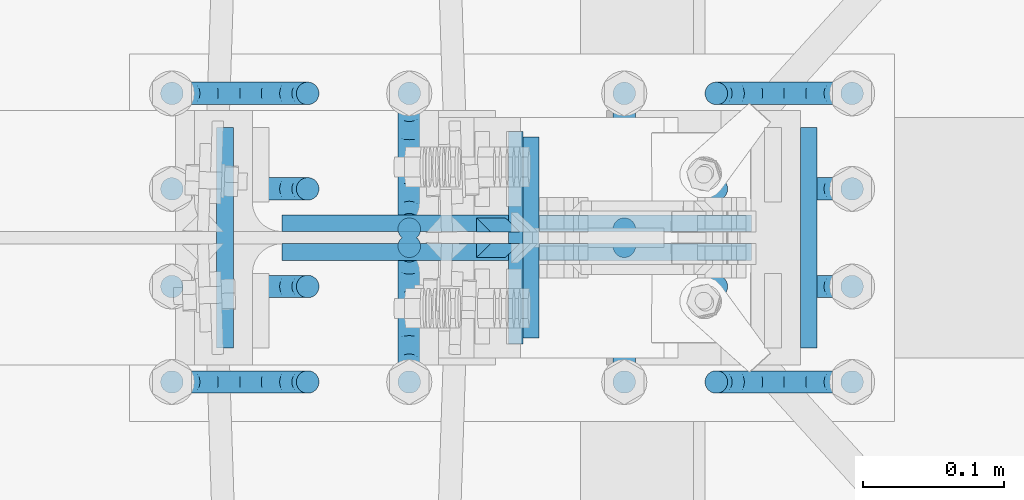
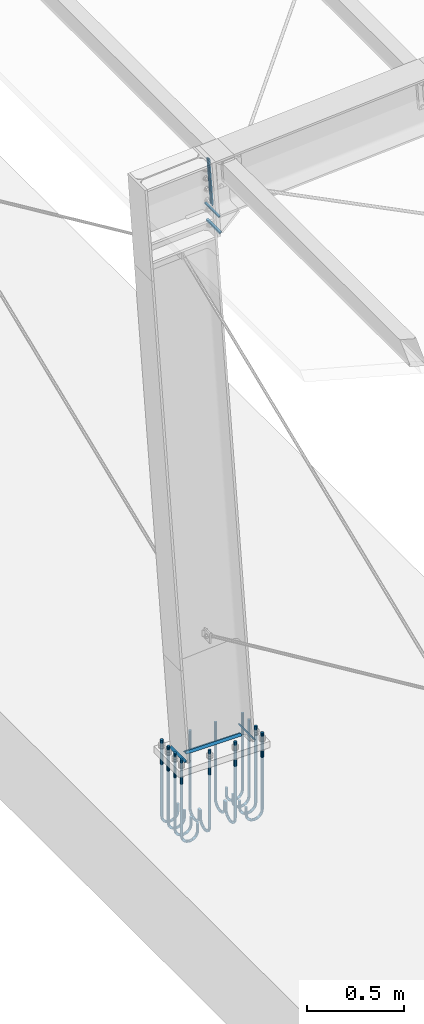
# One storey, part 13 of 72: 16 fasteners, 3 reinforcing bars.
"""IFC4 building model written with IfcOpenShell, lengths in metres."""

from ifc_helpers import new_model, entity, si_unit, frame, origin_with_axes, place, context, project, spatial, polyline, outline, extrude, source, transform, mapped, type_object, element, save


model = new_model("IFC4")

# Units and contexts
model_context = context("Model", 3, precision=1e-05, world=origin_with_axes())
ifc_project = project(units=[si_unit("LENGTHUNIT", "METRE"), si_unit("AREAUNIT", "SQUARE_METRE"), si_unit("VOLUMEUNIT", "CUBIC_METRE"), si_unit("MASSUNIT", "GRAM", prefix="KILO"), si_unit("TIMEUNIT", "SECOND"), si_unit("PLANEANGLEUNIT", "RADIAN"), si_unit("SOLIDANGLEUNIT", "STERADIAN"), si_unit("THERMODYNAMICTEMPERATUREUNIT", "DEGREE_CELSIUS")], contexts=[model_context])

# Site, building, storey
placement_1 = place(None, origin_with_axes())
site = spatial("IfcSite", under=ifc_project, at=placement_1, Name="Italia", CompositionType="ELEMENT")
building = spatial("IfcBuilding", under=site, at=placement_1, Name="Pensilina", CompositionType="ELEMENT")
storey = spatial("IfcBuildingStorey", under=building, at=placement_1, Name="Storey 0", CompositionType="ELEMENT", Elevation=0.0)

# Fasteners
fastener_type_1 = type_object("IfcFastenerType", Name="Collegamento 0002_-197", PredefinedType="WELD")
placement_2 = place(placement_1, origin_with_axes())
fastener_1_placement = place(placement_2, origin_with_axes())
element("IfcFastener", 1, at=fastener_1_placement, inside=storey, type_object=fastener_type_1, Name="Collegamento 0002_-197", context=model_context, shape_type="SweptSolid", body=[
    extrude(outline(polyline([(0.0, 0.0, 0.0), (0.0118082, 0.0121734, 0.0), (0.0118082, 0.0, 0.0), (0.0, 0.0, 0.0)])), frame((1.14428, 5.20195, 0.103658), z_axis=(0.0, 1.0, 0.0), x_axis=(-1.0, 0.0, 0.0)), (0.0, 0.0, 1.0), 0.1561),
])
fastener_type_2 = type_object("IfcFastenerType", Name="Collegamento 0002_-197", PredefinedType="WELD")
fastener_2_placement = place(placement_2, origin_with_axes())
element("IfcFastener", 2, at=fastener_2_placement, inside=storey, type_object=fastener_type_2, Name="Collegamento 0002_-197", context=model_context, shape_type="SweptSolid", body=[
    extrude(outline(polyline([(0.0, 0.0, 0.0), (0.0118082, 0.0121734, 0.0), (0.0118082, 0.0, 0.0), (0.0, 0.0, 0.0)])), frame((0.719817, 5.35805, 0.103658), z_axis=(0.0, -1.0, 0.0), x_axis=(1.0, 0.0, 0.0)), (0.0, 0.0, 1.0), 0.1561),
])
fastener_type_3 = type_object("IfcFastenerType", Name="Collegamento 0002_-197", PredefinedType="WELD")
fastener_3_placement = place(placement_2, origin_with_axes())
element("IfcFastener", 3, at=fastener_3_placement, inside=storey, type_object=fastener_type_3, Name="Collegamento 0002_-197", context=model_context, shape_type="SweptSolid", body=[
    extrude(outline(polyline([(0.0, 0.0, 0.0), (0.0118084, 0.0121734, 0.0), (0.0118084, 0.0, 0.0), (0.0, 0.0, 0.0)])), frame((0.766057, 5.26394, 0.103658), z_axis=(1.0, 0.0, 0.0), x_axis=(0.0, 1.0, 0.0)), (0.0, 0.0, 1.0), 0.331979),
])
fastener_type_4 = type_object("IfcFastenerType", Name="Collegamento 0002_-197", PredefinedType="WELD")
fastener_4_placement = place(placement_2, origin_with_axes())
element("IfcFastener", 4, at=fastener_4_placement, inside=storey, type_object=fastener_type_4, Name="Collegamento 0002_-197", context=model_context, shape_type="SweptSolid", body=[
    extrude(outline(polyline([(0.0, 0.0, 0.0), (0.0118084, 0.0121734, 0.0), (0.0118084, 0.0, 0.0), (0.0, 0.0, 0.0)])), frame((1.09804, 5.29606, 0.103658), z_axis=(-1.0, 0.0, 0.0), x_axis=(0.0, -1.0, 0.0)), (0.0, 0.0, 1.0), 0.331979),
])
fastener_type_5 = type_object("IfcFastenerType", Name="Collegamento 0002_-197", PredefinedType="WELD")
fastener_5_placement = place(placement_2, origin_with_axes())
element("IfcFastener", 5, at=fastener_5_placement, inside=storey, type_object=fastener_type_5, Name="Collegamento 0002_-197", context=model_context, shape_type="SweptSolid", body=[
    extrude(outline(polyline([(0.0, 0.0, 0.0), (0.0118082, 0.0121734, 0.0), (0.0118082, 0.0, 0.0), (0.0, 0.0, 0.0)])), frame((1.14428, 5.20195, 0.103658), z_axis=(0.0, 1.0, 0.0), x_axis=(-1.0, 0.0, 0.0)), (0.0, 0.0, 1.0), 0.1561),
])
fastener_type_6 = type_object("IfcFastenerType", Name="Collegamento 0002_-197", PredefinedType="WELD")
fastener_6_placement = place(placement_2, origin_with_axes())
element("IfcFastener", 6, at=fastener_6_placement, inside=storey, type_object=fastener_type_6, Name="Collegamento 0002_-197", context=model_context, shape_type="SweptSolid", body=[
    extrude(outline(polyline([(0.0, 0.0, 0.0), (0.0118082, 0.0121734, 0.0), (0.0118082, 0.0, 0.0), (0.0, 0.0, 0.0)])), frame((0.719817, 5.35805, 0.103658), z_axis=(0.0, -1.0, 0.0), x_axis=(1.0, 0.0, 0.0)), (0.0, 0.0, 1.0), 0.1561),
])
fastener_type_7 = type_object("IfcFastenerType", Name="Collegamento 0002_-197", PredefinedType="WELD")
fastener_7_placement = place(placement_2, origin_with_axes())
element("IfcFastener", 7, at=fastener_7_placement, inside=storey, type_object=fastener_type_7, Name="Collegamento 0002_-197", context=model_context, shape_type="SweptSolid", body=[
    extrude(outline(polyline([(0.0, 0.0, 0.0), (0.0118084, 0.0121734, 0.0), (0.0118084, 0.0, 0.0), (0.0, 0.0, 0.0)])), frame((0.766057, 5.26394, 0.103658), z_axis=(1.0, 0.0, 0.0), x_axis=(0.0, 1.0, 0.0)), (0.0, 0.0, 1.0), 0.331979),
])
fastener_type_8 = type_object("IfcFastenerType", Name="Collegamento 0002_-197", PredefinedType="WELD")
fastener_8_placement = place(placement_2, origin_with_axes())
element("IfcFastener", 8, at=fastener_8_placement, inside=storey, type_object=fastener_type_8, Name="Collegamento 0002_-197", context=model_context, shape_type="SweptSolid", body=[
    extrude(outline(polyline([(0.0, 0.0, 0.0), (0.0118084, 0.0121734, 0.0), (0.0118084, 0.0, 0.0), (0.0, 0.0, 0.0)])), frame((1.09804, 5.29606, 0.103658), z_axis=(-1.0, 0.0, 0.0), x_axis=(0.0, -1.0, 0.0)), (0.0, 0.0, 1.0), 0.331979),
])

# Reinforcing bars
shared_shape_1 = source(origin_with_axes(), model_context, "Body", "AdvancedSweptSolid", [
    entity("IfcSweptDiskSolid", entity("IfcIndexedPolyCurve", entity("IfcCartesianPointList3D", [[0.68823, 5.382, 0.153708], [0.68823, 5.382, -0.330292]]), [entity("IfcLineIndex", [1, 2])], False), 0.008),
])
reinforcing_bar_1_placement = place(placement_2, origin_with_axes())
element("IfcReinforcingBar", 9, at=reinforcing_bar_1_placement, inside=storey, BarLength=0.484, CrossSectionArea=0.00020106, NominalDiameter=0.016, context=model_context, shape_type="MappedRepresentation", body=[
    mapped(shared_shape_1, transform((0.4809, 0.0, 0.0), x_axis=(1.0, 0.0, 0.0), y_axis=(0.0, 1.0, 0.0), z_axis=(0.0, 0.0, 1.0), scale=1.0)),
    mapped(shared_shape_1, transform((0.319817, -0.204, 0.0), x_axis=(1.0, 0.0, 0.0), y_axis=(0.0, 1.0, 0.0), z_axis=(0.0, 0.0, 1.0), scale=1.0)),
    mapped(shared_shape_1, transform((0.319817, 0.0, 0.0), x_axis=(1.0, 0.0, 0.0), y_axis=(0.0, 1.0, 0.0), z_axis=(0.0, 0.0, 1.0), scale=1.0)),
    mapped(shared_shape_1, transform((0.4809, -0.204, 0.0), x_axis=(1.0, 0.0, 0.0), y_axis=(0.0, 1.0, 0.0), z_axis=(0.0, 0.0, 1.0), scale=1.0)),
    mapped(shared_shape_1, transform((0.4809, -0.1365, 0.0), x_axis=(1.0, 0.0, 0.0), y_axis=(0.0, 1.0, 0.0), z_axis=(0.0, 0.0, 1.0), scale=1.0)),
    mapped(shared_shape_1, transform((0.4809, -0.0674996, 0.0), x_axis=(1.0, 0.0, 0.0), y_axis=(0.0, 1.0, 0.0), z_axis=(0.0, 0.0, 1.0), scale=1.0)),
    mapped(shared_shape_1, transform((0.0, -0.1365, 0.0), x_axis=(1.0, 0.0, 0.0), y_axis=(0.0, 1.0, 0.0), z_axis=(0.0, 0.0, 1.0), scale=1.0)),
    mapped(shared_shape_1, transform((0.0, -0.0674996, 0.0), x_axis=(1.0, 0.0, 0.0), y_axis=(0.0, 1.0, 0.0), z_axis=(0.0, 0.0, 1.0), scale=1.0)),
    mapped(shared_shape_1, transform((0.0, 0.0, 0.0), x_axis=(1.0, 0.0, 0.0), y_axis=(0.0, 1.0, 0.0), z_axis=(0.0, 0.0, 1.0), scale=1.0)),
    mapped(shared_shape_1, transform((0.167817, -0.204, 0.0), x_axis=(1.0, 0.0, 0.0), y_axis=(0.0, 1.0, 0.0), z_axis=(0.0, 0.0, 1.0), scale=1.0)),
    mapped(shared_shape_1, transform((0.167817, 0.0, 0.0), x_axis=(1.0, 0.0, 0.0), y_axis=(0.0, 1.0, 0.0), z_axis=(0.0, 0.0, 1.0), scale=1.0)),
    mapped(shared_shape_1, transform((0.0, -0.204, 0.0), x_axis=(1.0, 0.0, 0.0), y_axis=(0.0, 1.0, 0.0), z_axis=(0.0, 0.0, 1.0), scale=1.0)),
])
shared_shape_2 = source(origin_with_axes(), model_context, "Body", "AdvancedSweptSolid", [
    entity("IfcSweptDiskSolid", entity("IfcIndexedPolyCurve", entity("IfcCartesianPointList3D", [[0.68823, 5.382, -0.330292], [0.691883, 5.382, -0.348661]]), [entity("IfcLineIndex", [1, 2])], False), 0.008),
])
reinforcing_bar_2_placement = place(placement_2, origin_with_axes())
element("IfcReinforcingBar", 10, at=reinforcing_bar_2_placement, inside=storey, BarLength=0.0187287, CrossSectionArea=0.00020106, NominalDiameter=0.016, context=model_context, shape_type="MappedRepresentation", body=[
    mapped(shared_shape_2, transform((-4.52595, 6.07023, 8.64267e-06), x_axis=(0.0, -1.0, -1.25021e-05), y_axis=(1.0, 0.0, 0.0), z_axis=(0.0, -1.25021e-05, 1.0), scale=1.0)),
    mapped(shared_shape_2, transform((0.0, -0.204, 0.0), x_axis=(1.0, 0.0, 0.0), y_axis=(0.0, 1.0, 0.0), z_axis=(0.0, 0.0, 1.0), scale=1.0)),
    mapped(shared_shape_2, transform((-4.52595, 6.14058, -0.306887), x_axis=(0.0, -0.923879, 0.382685), y_axis=(1.0, 0.0, 0.0), z_axis=(0.0, 0.382685, 0.923879), scale=1.0)),
    mapped(shared_shape_2, transform((-0.0703552, -0.204, -0.306887), x_axis=(0.923879, 0.0, 0.382685), y_axis=(0.0, 1.0, 0.0), z_axis=(-0.382685, 0.0, 0.923879), scale=1.0)),
    mapped(shared_shape_2, transform((-4.52595, 5.92089, -0.884082), x_axis=(0.0, -0.382684, 0.923879), y_axis=(1.0, 0.0, 0.0), z_axis=(0.0, 0.923879, 0.382684), scale=1.0)),
    mapped(shared_shape_2, transform((-0.0179144, -0.0674996, -0.617335), x_axis=(0.707105, 0.0, 0.707108), y_axis=(0.0, 1.0, 0.0), z_axis=(-0.707108, 0.0, 0.707105), scale=1.0)),
    mapped(shared_shape_2, transform((-0.0179144, 0.0, -0.617335), x_axis=(0.707105, 0.0, 0.707108), y_axis=(0.0, 1.0, 0.0), z_axis=(-0.707108, 0.0, 0.707105), scale=1.0)),
    mapped(shared_shape_2, transform((1.02327, -0.204, -1.08444), x_axis=(-0.707106, 0.0, 0.707108), y_axis=(0.0, 1.0, 0.0), z_axis=(-0.707108, 0.0, -0.707106), scale=1.0)),
    mapped(shared_shape_2, transform((0.149338, -0.204, -0.884083), x_axis=(0.382682, 0.0, 0.92388), y_axis=(0.0, 1.0, 0.0), z_axis=(-0.92388, 0.0, 0.382682), scale=1.0)),
    mapped(shared_shape_2, transform((0.712824, -0.0674996, -1.13688), x_axis=(-0.382684, 0.0, 0.923879), y_axis=(0.0, 1.0, 0.0), z_axis=(-0.923879, 0.0, -0.382684), scale=1.0)),
    mapped(shared_shape_2, transform((1.29002, -0.204, -0.917183), x_axis=(-0.923881, 0.0, 0.382679), y_axis=(0.0, 1.0, 0.0), z_axis=(-0.382679, 0.0, -0.923881), scale=1.0)),
    mapped(shared_shape_2, transform((-4.52595, 5.66429, -1.06652), x_axis=(0.0, 0.0, 1.0), y_axis=(1.0, 0.0, 0.0), z_axis=(0.0, 1.0, 0.0), scale=1.0)),
    mapped(shared_shape_2, transform((6.23805, 5.2026, -1.13688), x_axis=(0.0, -0.382692, 0.923876), y_axis=(-1.0, 0.0, 0.0), z_axis=(0.0, -0.923876, -0.382692), scale=1.0)),
    mapped(shared_shape_2, transform((0.712824, -0.204, -1.13688), x_axis=(-0.382684, 0.0, 0.923879), y_axis=(0.0, 1.0, 0.0), z_axis=(-0.923879, 0.0, -0.382684), scale=1.0)),
    mapped(shared_shape_2, transform((-4.52595, 6.08814, -0.617336), x_axis=(0.0, -0.707104, 0.70711), y_axis=(1.0, 0.0, 0.0), z_axis=(0.0, 0.70711, 0.707104), scale=1.0)),
    mapped(shared_shape_2, transform((-0.0703552, 0.0, -0.306887), x_axis=(0.923879, 0.0, 0.382685), y_axis=(0.0, 1.0, 0.0), z_axis=(-0.382685, 0.0, 0.923879), scale=1.0)),
    mapped(shared_shape_2, transform((-0.0703552, -0.0674996, -0.306887), x_axis=(0.923879, 0.0, 0.382685), y_axis=(0.0, 1.0, 0.0), z_axis=(-0.382685, 0.0, 0.923879), scale=1.0)),
    mapped(shared_shape_2, transform((-0.0179144, -0.204, -0.617335), x_axis=(0.707105, 0.0, 0.707108), y_axis=(0.0, 1.0, 0.0), z_axis=(-0.707108, 0.0, 0.707105), scale=1.0)),
    mapped(shared_shape_2, transform((0.0, -0.1365, 0.0), x_axis=(1.0, 0.0, 0.0), y_axis=(0.0, 1.0, 0.0), z_axis=(0.0, 0.0, 1.0), scale=1.0)),
    mapped(shared_shape_2, transform((0.712824, 0.0, -1.13688), x_axis=(-0.382684, 0.0, 0.923879), y_axis=(0.0, 1.0, 0.0), z_axis=(-0.923879, 0.0, -0.382684), scale=1.0)),
    mapped(shared_shape_2, transform((0.405939, 0.0, -1.06652), x_axis=(0.0, 0.0, 1.0), y_axis=(0.0, 1.0, 0.0), z_axis=(-1.0, 0.0, 0.0), scale=1.0)),
    mapped(shared_shape_2, transform((-4.52595, 4.78021, -0.917186), x_axis=(0.0, 0.923879, 0.382685), y_axis=(1.0, 0.0, 0.0), z_axis=(0.0, 0.382685, -0.923879), scale=1.0)),
    mapped(shared_shape_2, transform((0.149338, -0.1365, -0.884083), x_axis=(0.382682, 0.0, 0.92388), y_axis=(0.0, 1.0, 0.0), z_axis=(-0.92388, 0.0, 0.382682), scale=1.0)),
    mapped(shared_shape_2, transform((-0.0179144, -0.1365, -0.617335), x_axis=(0.707105, 0.0, 0.707108), y_axis=(0.0, 1.0, 0.0), z_axis=(-0.707108, 0.0, 0.707105), scale=1.0)),
    mapped(shared_shape_2, transform((1.02327, -0.1365, -1.08444), x_axis=(-0.707106, 0.0, 0.707108), y_axis=(0.0, 1.0, 0.0), z_axis=(-0.707108, 0.0, -0.707106), scale=1.0)),
    mapped(shared_shape_2, transform((0.149338, 0.0, -0.884083), x_axis=(0.382682, 0.0, 0.92388), y_axis=(0.0, 1.0, 0.0), z_axis=(-0.92388, 0.0, 0.382682), scale=1.0)),
    mapped(shared_shape_2, transform((0.405939, -0.1365, -1.06652), x_axis=(0.0, 0.0, 1.0), y_axis=(0.0, 1.0, 0.0), z_axis=(-1.0, 0.0, 0.0), scale=1.0)),
    mapped(shared_shape_2, transform((0.149338, -0.0674996, -0.884083), x_axis=(0.382682, 0.0, 0.92388), y_axis=(0.0, 1.0, 0.0), z_axis=(-0.92388, 0.0, 0.382682), scale=1.0)),
    mapped(shared_shape_2, transform((-4.37395, 5.04696, -1.08444), x_axis=(0.0, 0.707104, 0.70711), y_axis=(1.0, 0.0, 0.0), z_axis=(0.0, 0.70711, -0.707104), scale=1.0)),
    mapped(shared_shape_2, transform((-4.52595, 5.04696, -1.08444), x_axis=(0.0, 0.707104, 0.70711), y_axis=(1.0, 0.0, 0.0), z_axis=(0.0, 0.70711, -0.707104), scale=1.0)),
    mapped(shared_shape_2, transform((-4.52595, 5.3574, -1.13688), x_axis=(0.0, 0.382692, 0.923876), y_axis=(1.0, 0.0, 0.0), z_axis=(0.0, 0.923876, -0.382692), scale=1.0)),
    mapped(shared_shape_2, transform((-4.37395, 6.08814, -0.617336), x_axis=(0.0, -0.707104, 0.70711), y_axis=(1.0, 0.0, 0.0), z_axis=(0.0, 0.70711, 0.707104), scale=1.0)),
    mapped(shared_shape_2, transform((-4.37395, 6.07023, 8.64267e-06), x_axis=(0.0, -1.0, -1.25021e-05), y_axis=(1.0, 0.0, 0.0), z_axis=(0.0, -1.25021e-05, 1.0), scale=1.0)),
    mapped(shared_shape_2, transform((-4.37395, 5.92089, -0.884082), x_axis=(0.0, -0.382684, 0.923879), y_axis=(1.0, 0.0, 0.0), z_axis=(0.0, 0.923879, 0.382684), scale=1.0)),
    mapped(shared_shape_2, transform((-4.37395, 6.14058, -0.306887), x_axis=(0.0, -0.923879, 0.382685), y_axis=(1.0, 0.0, 0.0), z_axis=(0.0, 0.382685, 0.923879), scale=1.0)),
    mapped(shared_shape_2, transform((-4.37395, 5.66429, -1.06652), x_axis=(0.0, 0.0, 1.0), y_axis=(1.0, 0.0, 0.0), z_axis=(0.0, 1.0, 0.0), scale=1.0)),
    mapped(shared_shape_2, transform((0.712824, -0.1365, -1.13688), x_axis=(-0.382684, 0.0, 0.923879), y_axis=(0.0, 1.0, 0.0), z_axis=(-0.923879, 0.0, -0.382684), scale=1.0)),
    mapped(shared_shape_2, transform((1.02327, -0.0674996, -1.08444), x_axis=(-0.707106, 0.0, 0.707108), y_axis=(0.0, 1.0, 0.0), z_axis=(-0.707108, 0.0, -0.707106), scale=1.0)),
    mapped(shared_shape_2, transform((1.02327, 0.0, -1.08444), x_axis=(-0.707106, 0.0, 0.707108), y_axis=(0.0, 1.0, 0.0), z_axis=(-0.707108, 0.0, -0.707106), scale=1.0)),
    mapped(shared_shape_2, transform((-0.0703552, -0.1365, -0.306887), x_axis=(0.923879, 0.0, 0.382685), y_axis=(0.0, 1.0, 0.0), z_axis=(-0.382685, 0.0, 0.923879), scale=1.0)),
    mapped(shared_shape_2, transform((0.0, 0.0, 0.0), x_axis=(1.0, 0.0, 0.0), y_axis=(0.0, 1.0, 0.0), z_axis=(0.0, 0.0, 1.0), scale=1.0)),
    mapped(shared_shape_2, transform((0.0, -0.0674996, 0.0), x_axis=(1.0, 0.0, 0.0), y_axis=(0.0, 1.0, 0.0), z_axis=(0.0, 0.0, 1.0), scale=1.0)),
    mapped(shared_shape_2, transform((0.405939, -0.204, -1.06652), x_axis=(0.0, 0.0, 1.0), y_axis=(0.0, 1.0, 0.0), z_axis=(-1.0, 0.0, 0.0), scale=1.0)),
    mapped(shared_shape_2, transform((1.29002, -0.0674996, -0.917183), x_axis=(-0.923881, 0.0, 0.382679), y_axis=(0.0, 1.0, 0.0), z_axis=(-0.382679, 0.0, -0.923881), scale=1.0)),
    mapped(shared_shape_2, transform((1.29002, -0.1365, -0.917183), x_axis=(-0.923881, 0.0, 0.382679), y_axis=(0.0, 1.0, 0.0), z_axis=(-0.382679, 0.0, -0.923881), scale=1.0)),
    mapped(shared_shape_2, transform((0.405939, -0.0674996, -1.06652), x_axis=(0.0, 0.0, 1.0), y_axis=(0.0, 1.0, 0.0), z_axis=(-1.0, 0.0, 0.0), scale=1.0)),
    mapped(shared_shape_2, transform((6.23805, 4.89571, -1.06652), x_axis=(0.0, 0.0, 1.0), y_axis=(-1.0, 0.0, 0.0), z_axis=(0.0, -1.0, 0.0), scale=1.0)),
    mapped(shared_shape_2, transform((6.39005, 4.89571, -1.06652), x_axis=(0.0, 0.0, 1.0), y_axis=(-1.0, 0.0, 0.0), z_axis=(0.0, -1.0, 0.0), scale=1.0)),
    mapped(shared_shape_2, transform((1.29002, 0.0, -0.917183), x_axis=(-0.923881, 0.0, 0.382679), y_axis=(0.0, 1.0, 0.0), z_axis=(-0.382679, 0.0, -0.923881), scale=1.0)),
    mapped(shared_shape_2, transform((6.23805, 4.48977, 8.64267e-06), x_axis=(0.0, 1.0, -1.25021e-05), y_axis=(-1.0, 0.0, 0.0), z_axis=(0.0, 1.25021e-05, 1.0), scale=1.0)),
    mapped(shared_shape_2, transform((6.39005, 4.41942, -0.306887), x_axis=(0.0, 0.923879, 0.382685), y_axis=(-1.0, 0.0, 0.0), z_axis=(0.0, -0.382685, 0.923879), scale=1.0)),
    mapped(shared_shape_2, transform((6.23805, 4.47186, -0.617336), x_axis=(0.0, 0.707104, 0.70711), y_axis=(-1.0, 0.0, 0.0), z_axis=(0.0, -0.70711, 0.707104), scale=1.0)),
    mapped(shared_shape_2, transform((6.23805, 4.41942, -0.306887), x_axis=(0.0, 0.923879, 0.382685), y_axis=(-1.0, 0.0, 0.0), z_axis=(0.0, -0.382685, 0.923879), scale=1.0)),
    mapped(shared_shape_2, transform((6.39005, 4.48977, 8.64267e-06), x_axis=(0.0, 1.0, -1.25021e-05), y_axis=(-1.0, 0.0, 0.0), z_axis=(0.0, 1.25021e-05, 1.0), scale=1.0)),
    mapped(shared_shape_2, transform((6.23805, 4.63911, -0.884082), x_axis=(0.0, 0.382684, 0.923879), y_axis=(-1.0, 0.0, 0.0), z_axis=(0.0, -0.923879, 0.382684), scale=1.0)),
    mapped(shared_shape_2, transform((6.39005, 4.47186, -0.617336), x_axis=(0.0, 0.707104, 0.70711), y_axis=(-1.0, 0.0, 0.0), z_axis=(0.0, -0.70711, 0.707104), scale=1.0)),
    mapped(shared_shape_2, transform((6.39005, 4.63911, -0.884082), x_axis=(0.0, 0.382684, 0.923879), y_axis=(-1.0, 0.0, 0.0), z_axis=(0.0, -0.923879, 0.382684), scale=1.0)),
    mapped(shared_shape_2, transform((-4.37395, 4.78021, -0.917186), x_axis=(0.0, 0.923879, 0.382685), y_axis=(1.0, 0.0, 0.0), z_axis=(0.0, 0.382685, -0.923879), scale=1.0)),
    mapped(shared_shape_2, transform((-4.37395, 5.3574, -1.13688), x_axis=(0.0, 0.382692, 0.923876), y_axis=(1.0, 0.0, 0.0), z_axis=(0.0, 0.923876, -0.382692), scale=1.0)),
    mapped(shared_shape_2, transform((1.92771, 10.56, -0.306887), x_axis=(-0.923879, 0.0, 0.382685), y_axis=(0.0, -1.0, 0.0), z_axis=(0.382685, 0.0, 0.923879), scale=1.0)),
    mapped(shared_shape_2, transform((1.85736, 10.56, 0.0), x_axis=(-1.0, 0.0, 0.0), y_axis=(0.0, -1.0, 0.0), z_axis=(0.0, 0.0, 1.0), scale=1.0)),
    mapped(shared_shape_2, transform((1.87528, 10.56, -0.617331), x_axis=(-0.707109, 0.0, 0.707105), y_axis=(0.0, -1.0, 0.0), z_axis=(0.707105, 0.0, 0.707109), scale=1.0)),
    mapped(shared_shape_2, transform((6.23805, 5.51304, -1.08444), x_axis=(0.0, -0.707104, 0.70711), y_axis=(-1.0, 0.0, 0.0), z_axis=(0.0, -0.70711, -0.707104), scale=1.0)),
    mapped(shared_shape_2, transform((1.70802, 10.56, -0.884083), x_axis=(-0.382682, 0.0, 0.92388), y_axis=(0.0, -1.0, 0.0), z_axis=(0.92388, 0.0, 0.382682), scale=1.0)),
    mapped(shared_shape_2, transform((6.39005, 5.77979, -0.917186), x_axis=(0.0, -0.923879, 0.382685), y_axis=(-1.0, 0.0, 0.0), z_axis=(0.0, -0.382685, -0.923879), scale=1.0)),
    mapped(shared_shape_2, transform((1.45142, 10.56, -1.06652), x_axis=(0.0, 0.0, 1.0), y_axis=(0.0, -1.0, 0.0), z_axis=(1.0, 0.0, 0.0), scale=1.0)),
    mapped(shared_shape_2, transform((6.23805, 5.77979, -0.917186), x_axis=(0.0, -0.923879, 0.382685), y_axis=(-1.0, 0.0, 0.0), z_axis=(0.0, -0.382685, -0.923879), scale=1.0)),
    mapped(shared_shape_2, transform((0.834084, 10.56, -1.08443), x_axis=(0.707111, 0.0, 0.707102), y_axis=(0.0, -1.0, 0.0), z_axis=(0.707102, 0.0, -0.707111), scale=1.0)),
    mapped(shared_shape_2, transform((0.834084, 10.764, -1.08443), x_axis=(0.707111, 0.0, 0.707102), y_axis=(0.0, -1.0, 0.0), z_axis=(0.707102, 0.0, -0.707111), scale=1.0)),
    mapped(shared_shape_2, transform((0.567341, 10.6275, -0.917186), x_axis=(0.923879, 0.0, 0.382685), y_axis=(0.0, -1.0, 0.0), z_axis=(0.382685, 0.0, -0.923879), scale=1.0)),
    mapped(shared_shape_2, transform((0.834084, 10.6275, -1.08443), x_axis=(0.707111, 0.0, 0.707102), y_axis=(0.0, -1.0, 0.0), z_axis=(0.707102, 0.0, -0.707111), scale=1.0)),
    mapped(shared_shape_2, transform((6.39005, 5.51304, -1.08444), x_axis=(0.0, -0.707104, 0.70711), y_axis=(-1.0, 0.0, 0.0), z_axis=(0.0, -0.70711, -0.707104), scale=1.0)),
    mapped(shared_shape_2, transform((0.567341, 10.6965, -0.917186), x_axis=(0.923879, 0.0, 0.382685), y_axis=(0.0, -1.0, 0.0), z_axis=(0.382685, 0.0, -0.923879), scale=1.0)),
    mapped(shared_shape_2, transform((0.567341, 10.56, -0.917186), x_axis=(0.923879, 0.0, 0.382685), y_axis=(0.0, -1.0, 0.0), z_axis=(0.382685, 0.0, -0.923879), scale=1.0)),
    mapped(shared_shape_2, transform((0.567341, 10.764, -0.917186), x_axis=(0.923879, 0.0, 0.382685), y_axis=(0.0, -1.0, 0.0), z_axis=(0.382685, 0.0, -0.923879), scale=1.0)),
    mapped(shared_shape_2, transform((1.14454, 10.6275, -1.13688), x_axis=(0.382683, 0.0, 0.92388), y_axis=(0.0, -1.0, 0.0), z_axis=(0.92388, 0.0, -0.382683), scale=1.0)),
    mapped(shared_shape_2, transform((0.834084, 10.6965, -1.08443), x_axis=(0.707111, 0.0, 0.707102), y_axis=(0.0, -1.0, 0.0), z_axis=(0.707102, 0.0, -0.707111), scale=1.0)),
    mapped(shared_shape_2, transform((1.14454, 10.6965, -1.13688), x_axis=(0.382683, 0.0, 0.92388), y_axis=(0.0, -1.0, 0.0), z_axis=(0.92388, 0.0, -0.382683), scale=1.0)),
    mapped(shared_shape_2, transform((1.14454, 10.56, -1.13688), x_axis=(0.382683, 0.0, 0.92388), y_axis=(0.0, -1.0, 0.0), z_axis=(0.92388, 0.0, -0.382683), scale=1.0)),
    mapped(shared_shape_2, transform((1.85736, 10.6275, 0.0), x_axis=(-1.0, 0.0, 0.0), y_axis=(0.0, -1.0, 0.0), z_axis=(0.0, 0.0, 1.0), scale=1.0)),
    mapped(shared_shape_2, transform((1.92771, 10.6275, -0.306887), x_axis=(-0.923879, 0.0, 0.382685), y_axis=(0.0, -1.0, 0.0), z_axis=(0.382685, 0.0, 0.923879), scale=1.0)),
    mapped(shared_shape_2, transform((1.87528, 10.6275, -0.617331), x_axis=(-0.707109, 0.0, 0.707105), y_axis=(0.0, -1.0, 0.0), z_axis=(0.707105, 0.0, 0.707109), scale=1.0)),
    mapped(shared_shape_2, transform((1.45142, 10.6275, -1.06652), x_axis=(0.0, 0.0, 1.0), y_axis=(0.0, -1.0, 0.0), z_axis=(1.0, 0.0, 0.0), scale=1.0)),
    mapped(shared_shape_2, transform((1.70802, 10.6965, -0.884083), x_axis=(-0.382682, 0.0, 0.92388), y_axis=(0.0, -1.0, 0.0), z_axis=(0.92388, 0.0, 0.382682), scale=1.0)),
    mapped(shared_shape_2, transform((1.70802, 10.6275, -0.884083), x_axis=(-0.382682, 0.0, 0.92388), y_axis=(0.0, -1.0, 0.0), z_axis=(0.92388, 0.0, 0.382682), scale=1.0)),
    mapped(shared_shape_2, transform((1.85736, 10.6965, 0.0), x_axis=(-1.0, 0.0, 0.0), y_axis=(0.0, -1.0, 0.0), z_axis=(0.0, 0.0, 1.0), scale=1.0)),
    mapped(shared_shape_2, transform((1.87528, 10.6965, -0.617331), x_axis=(-0.707109, 0.0, 0.707105), y_axis=(0.0, -1.0, 0.0), z_axis=(0.707105, 0.0, 0.707109), scale=1.0)),
    mapped(shared_shape_2, transform((1.92771, 10.6965, -0.306887), x_axis=(-0.923879, 0.0, 0.382685), y_axis=(0.0, -1.0, 0.0), z_axis=(0.382685, 0.0, 0.923879), scale=1.0)),
    mapped(shared_shape_2, transform((1.45142, 10.6965, -1.06652), x_axis=(0.0, 0.0, 1.0), y_axis=(0.0, -1.0, 0.0), z_axis=(1.0, 0.0, 0.0), scale=1.0)),
    mapped(shared_shape_2, transform((1.85736, 10.764, 0.0), x_axis=(-1.0, 0.0, 0.0), y_axis=(0.0, -1.0, 0.0), z_axis=(0.0, 0.0, 1.0), scale=1.0)),
    mapped(shared_shape_2, transform((1.92771, 10.764, -0.306887), x_axis=(-0.923879, 0.0, 0.382685), y_axis=(0.0, -1.0, 0.0), z_axis=(0.382685, 0.0, 0.923879), scale=1.0)),
    mapped(shared_shape_2, transform((1.87528, 10.764, -0.617331), x_axis=(-0.707109, 0.0, 0.707105), y_axis=(0.0, -1.0, 0.0), z_axis=(0.707105, 0.0, 0.707109), scale=1.0)),
    mapped(shared_shape_2, transform((1.70802, 10.764, -0.884083), x_axis=(-0.382682, 0.0, 0.92388), y_axis=(0.0, -1.0, 0.0), z_axis=(0.92388, 0.0, 0.382682), scale=1.0)),
    mapped(shared_shape_2, transform((1.45142, 10.764, -1.06652), x_axis=(0.0, 0.0, 1.0), y_axis=(0.0, -1.0, 0.0), z_axis=(1.0, 0.0, 0.0), scale=1.0)),
    mapped(shared_shape_2, transform((6.39005, 5.2026, -1.13688), x_axis=(0.0, -0.382692, 0.923876), y_axis=(-1.0, 0.0, 0.0), z_axis=(0.0, -0.923876, -0.382692), scale=1.0)),
    mapped(shared_shape_2, transform((1.14454, 10.764, -1.13688), x_axis=(0.382683, 0.0, 0.92388), y_axis=(0.0, -1.0, 0.0), z_axis=(0.92388, 0.0, -0.382683), scale=1.0)),
])
shared_shape_3 = source(origin_with_axes(), model_context, "Body", "AdvancedSweptSolid", [
    entity("IfcSweptDiskSolid", entity("IfcIndexedPolyCurve", entity("IfcCartesianPointList3D", [[0.78423, 5.382, -0.330291], [0.78423, 5.382, -0.282292]]), [entity("IfcLineIndex", [1, 2])], False), 0.008),
])
reinforcing_bar_3_placement = place(placement_2, origin_with_axes())
element("IfcReinforcingBar", 11, at=reinforcing_bar_3_placement, inside=storey, BarLength=0.0479995, CrossSectionArea=0.00020106, NominalDiameter=0.016, context=model_context, shape_type="MappedRepresentation", body=[
    mapped(shared_shape_3, transform((0.2889, 0.0, 0.0), x_axis=(1.0, 0.0, 0.0), y_axis=(0.0, 1.0, 0.0), z_axis=(0.0, 0.0, 1.0), scale=1.0)),
    mapped(shared_shape_3, transform((0.223817, -0.108, 0.0), x_axis=(1.0, 0.0, 0.0), y_axis=(0.0, 1.0, 0.0), z_axis=(0.0, 0.0, 1.0), scale=1.0)),
    mapped(shared_shape_3, transform((0.223817, -0.0959997, 0.0), x_axis=(1.0, 0.0, 0.0), y_axis=(0.0, 1.0, 0.0), z_axis=(0.0, 0.0, 1.0), scale=1.0)),
    mapped(shared_shape_3, transform((0.2889, -0.204, 0.0), x_axis=(1.0, 0.0, 0.0), y_axis=(0.0, 1.0, 0.0), z_axis=(0.0, 0.0, 1.0), scale=1.0)),
    mapped(shared_shape_3, transform((0.2889, -0.1365, 0.0), x_axis=(1.0, 0.0, 0.0), y_axis=(0.0, 1.0, 0.0), z_axis=(0.0, 0.0, 1.0), scale=1.0)),
    mapped(shared_shape_3, transform((0.2889, -0.0674996, 0.0), x_axis=(1.0, 0.0, 0.0), y_axis=(0.0, 1.0, 0.0), z_axis=(0.0, 0.0, 1.0), scale=1.0)),
    mapped(shared_shape_3, transform((0.0, -0.1365, 0.0), x_axis=(1.0, 0.0, 0.0), y_axis=(0.0, 1.0, 0.0), z_axis=(0.0, 0.0, 1.0), scale=1.0)),
    mapped(shared_shape_3, transform((0.0, -0.0674996, 0.0), x_axis=(1.0, 0.0, 0.0), y_axis=(0.0, 1.0, 0.0), z_axis=(0.0, 0.0, 1.0), scale=1.0)),
    mapped(shared_shape_3, transform((0.0, 0.0, 0.0), x_axis=(1.0, 0.0, 0.0), y_axis=(0.0, 1.0, 0.0), z_axis=(0.0, 0.0, 1.0), scale=1.0)),
    mapped(shared_shape_3, transform((0.0718169, -0.108, 0.0), x_axis=(1.0, 0.0, 0.0), y_axis=(0.0, 1.0, 0.0), z_axis=(0.0, 0.0, 1.0), scale=1.0)),
    mapped(shared_shape_3, transform((0.0718169, -0.0959997, 0.0), x_axis=(1.0, 0.0, 0.0), y_axis=(0.0, 1.0, 0.0), z_axis=(0.0, 0.0, 1.0), scale=1.0)),
    mapped(shared_shape_3, transform((0.0, -0.204, 0.0), x_axis=(1.0, 0.0, 0.0), y_axis=(0.0, 1.0, 0.0), z_axis=(0.0, 0.0, 1.0), scale=1.0)),
])

# Fasteners
fastener_type_9 = type_object("IfcFastenerType", Name="Collegamento 0102_0202", PredefinedType="WELD")
fastener_9_placement = place(placement_2, origin_with_axes())
element("IfcFastener", 12, at=fastener_9_placement, inside=storey, type_object=fastener_type_9, Name="Collegamento 0102_0202", context=model_context, shape_type="SweptSolid", body=[
    extrude(outline(polyline([(0.0, 0.0, 0.0), (-0.00947303, 0.0105422, 0.0), (0.000676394, 0.00984478, 0.0), (0.0, 0.0, 0.0)])), frame((0.926961, 5.20495, 3.45975), z_axis=(0.0, 1.0, 0.0), x_axis=(-1.0, 0.0, 0.0)), (0.0, 0.0, 1.0), 0.1501),
])
fastener_type_10 = type_object("IfcFastenerType", Name="Collegamento 0102_0202", PredefinedType="WELD")
fastener_10_placement = place(placement_2, origin_with_axes())
element("IfcFastener", 13, at=fastener_10_placement, inside=storey, type_object=fastener_type_10, Name="Collegamento 0102_0202", context=model_context, shape_type="SweptSolid", body=[
    extrude(outline(polyline([(0.0, 0.0, 0.0), (0.00986814, 0.0101733, 0.0), (0.00986814, 0.0, 0.0), (0.0, 0.0, 0.0)])), frame((0.924187, 5.29382, 3.50013), z_axis=(-0.068540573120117, 0.0, 0.997648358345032), x_axis=(0.0, -1.0, 0.0)), (0.0, 0.0, 1.0), 0.2987),
])
fastener_type_11 = type_object("IfcFastenerType", Name="Collegamento 0102_0202", PredefinedType="WELD")
fastener_11_placement = place(placement_2, origin_with_axes())
element("IfcFastener", 14, at=fastener_11_placement, inside=storey, type_object=fastener_type_11, Name="Collegamento 0102_0202", context=model_context, shape_type="SweptSolid", body=[
    extrude(outline(polyline([(0.0, 0.0, 0.0), (0.00986814, 0.0101733, 0.0), (0.00986814, 0.0, 0.0), (0.0, 0.0, 0.0)])), frame((0.903714, 5.26618, 3.79813), z_axis=(0.068540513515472, 0.0, -0.997648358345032), x_axis=(0.0, 1.0, 0.0)), (0.0, 0.0, 1.0), 0.2987),
])
fastener_type_12 = type_object("IfcFastenerType", Name="Collegamento 0102_0202", PredefinedType="WELD")
fastener_12_placement = place(placement_2, origin_with_axes())
element("IfcFastener", 15, at=fastener_12_placement, inside=storey, type_object=fastener_type_12, Name="Collegamento 0102_0202", context=model_context, shape_type="SweptSolid", body=[
    extrude(outline(polyline([(0.0, 0.0, 0.0), (-0.0131977, 0.0146873, 0.0), (0.00094229, 0.013716, 0.0), (0.0, 0.0, 0.0)])), frame((0.934492, 5.20895, 3.35013), z_axis=(0.0, 1.0, 0.0), x_axis=(-1.0, 0.0, 0.0)), (0.0, 0.0, 1.0), 0.1421),
])
fastener_type_13 = type_object("IfcFastenerType", Name="Collegamento 0102_0202", PredefinedType="WELD")
fastener_13_placement = place(placement_2, origin_with_axes())
element("IfcFastener", 16, at=fastener_13_placement, inside=storey, type_object=fastener_type_13, Name="Collegamento 0102_0202", context=model_context, shape_type="SweptSolid", body=[
    extrude(outline(polyline([(0.0, 0.0, 0.0), (-0.00947303, 0.0105422, 0.0), (0.000676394, 0.00984478, 0.0), (0.0, 0.0, 0.0)])), frame((0.926961, 5.20495, 3.45975), z_axis=(0.0, 1.0, 0.0), x_axis=(-1.0, 0.0, 0.0)), (0.0, 0.0, 1.0), 0.1501),
])
fastener_type_14 = type_object("IfcFastenerType", Name="Collegamento 0102_0202", PredefinedType="WELD")
fastener_14_placement = place(placement_2, origin_with_axes())
element("IfcFastener", 17, at=fastener_14_placement, inside=storey, type_object=fastener_type_14, Name="Collegamento 0102_0202", context=model_context, shape_type="SweptSolid", body=[
    extrude(outline(polyline([(0.0, 0.0, 0.0), (0.00986814, 0.0101733, 0.0), (0.00986814, 0.0, 0.0), (0.0, 0.0, 0.0)])), frame((0.924187, 5.29382, 3.50013), z_axis=(-0.068540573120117, 0.0, 0.997648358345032), x_axis=(0.0, -1.0, 0.0)), (0.0, 0.0, 1.0), 0.2987),
])
fastener_type_15 = type_object("IfcFastenerType", Name="Collegamento 0102_0202", PredefinedType="WELD")
fastener_15_placement = place(placement_2, origin_with_axes())
element("IfcFastener", 18, at=fastener_15_placement, inside=storey, type_object=fastener_type_15, Name="Collegamento 0102_0202", context=model_context, shape_type="SweptSolid", body=[
    extrude(outline(polyline([(0.0, 0.0, 0.0), (0.00986814, 0.0101733, 0.0), (0.00986814, 0.0, 0.0), (0.0, 0.0, 0.0)])), frame((0.903714, 5.26618, 3.79813), z_axis=(0.068540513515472, 0.0, -0.997648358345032), x_axis=(0.0, 1.0, 0.0)), (0.0, 0.0, 1.0), 0.2987),
])
fastener_type_16 = type_object("IfcFastenerType", Name="Collegamento 0102_0202", PredefinedType="WELD")
fastener_16_placement = place(placement_2, origin_with_axes())
element("IfcFastener", 19, at=fastener_16_placement, inside=storey, type_object=fastener_type_16, Name="Collegamento 0102_0202", context=model_context, shape_type="SweptSolid", body=[
    extrude(outline(polyline([(0.0, 0.0, 0.0), (-0.0131977, 0.0146873, 0.0), (0.00094229, 0.013716, 0.0), (0.0, 0.0, 0.0)])), frame((0.934492, 5.20895, 3.35013), z_axis=(0.0, 1.0, 0.0), x_axis=(-1.0, 0.0, 0.0)), (0.0, 0.0, 1.0), 0.1421),
])

save(model, "model.ifc")
